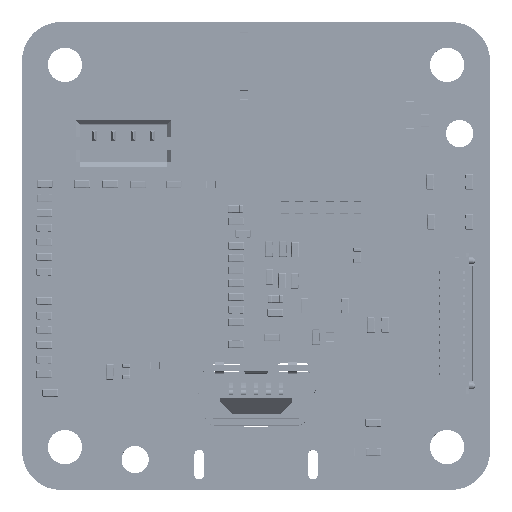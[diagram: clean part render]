
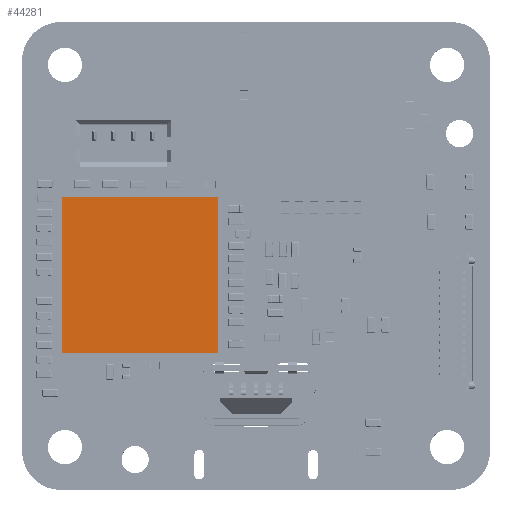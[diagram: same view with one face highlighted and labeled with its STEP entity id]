
A CAD part, top view. The second image highlights one B-rep face of the part: STEP entity #44281.
In plain terms, the highlighted planar face has unit normal (0, 0, 1).
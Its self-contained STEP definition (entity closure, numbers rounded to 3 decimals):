
#44152 = VERTEX_POINT('',#44153);
#44153 = CARTESIAN_POINT('',(5.,-5.,1.2));
#44159 = EDGE_CURVE('',#44152,#44160,#44162,.T.);
#44160 = VERTEX_POINT('',#44161);
#44161 = CARTESIAN_POINT('',(5.,5.,1.2));
#44162 = LINE('',#44163,#44164);
#44163 = CARTESIAN_POINT('',(5.,-5.,1.2));
#44164 = VECTOR('',#44165,1.);
#44165 = DIRECTION('',(0.,1.,0.));
#44190 = EDGE_CURVE('',#44160,#44191,#44193,.T.);
#44191 = VERTEX_POINT('',#44192);
#44192 = CARTESIAN_POINT('',(-5.,5.,1.2));
#44193 = LINE('',#44194,#44195);
#44194 = CARTESIAN_POINT('',(5.,5.,1.2));
#44195 = VECTOR('',#44196,1.);
#44196 = DIRECTION('',(-1.,0.,0.));
#44221 = EDGE_CURVE('',#44191,#44222,#44224,.T.);
#44222 = VERTEX_POINT('',#44223);
#44223 = CARTESIAN_POINT('',(-5.,-5.,1.2));
#44224 = LINE('',#44225,#44226);
#44225 = CARTESIAN_POINT('',(-5.,5.,1.2));
#44226 = VECTOR('',#44227,1.);
#44227 = DIRECTION('',(0.,-1.,0.));
#44252 = EDGE_CURVE('',#44222,#44152,#44253,.T.);
#44253 = LINE('',#44254,#44255);
#44254 = CARTESIAN_POINT('',(-5.,-5.,1.2));
#44255 = VECTOR('',#44256,1.);
#44256 = DIRECTION('',(1.,0.,0.));
#44281 = ADVANCED_FACE('',(#44282),#44288,.F.);
#44282 = FACE_BOUND('',#44283,.T.);
#44283 = EDGE_LOOP('',(#44284,#44285,#44286,#44287));
#44284 = ORIENTED_EDGE('',*,*,#44159,.T.);
#44285 = ORIENTED_EDGE('',*,*,#44190,.T.);
#44286 = ORIENTED_EDGE('',*,*,#44221,.T.);
#44287 = ORIENTED_EDGE('',*,*,#44252,.T.);
#44288 = PLANE('',#44289);
#44289 = AXIS2_PLACEMENT_3D('',#44290,#44291,#44292);
#44290 = CARTESIAN_POINT('',(5.,-5.,1.2));
#44291 = DIRECTION('',(0.,0.,-1.));
#44292 = DIRECTION('',(-1.,0.,0.));
